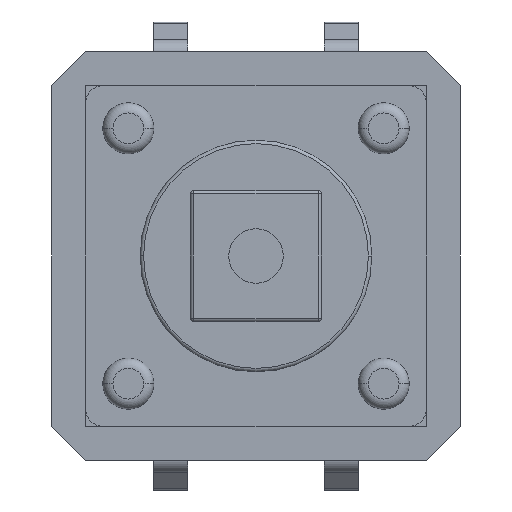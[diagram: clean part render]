
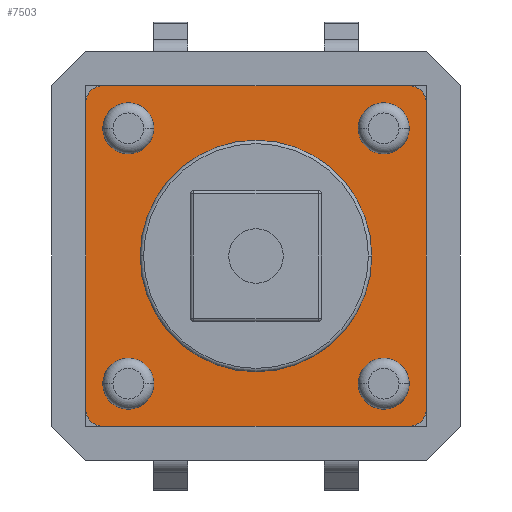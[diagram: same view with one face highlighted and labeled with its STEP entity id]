
A CAD part, front view. The second image highlights one B-rep face of the part: STEP entity #7503.
In plain terms, the highlighted planar face has unit normal (0, -1, 0).
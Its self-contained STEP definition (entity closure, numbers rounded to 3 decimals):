
#7134=CARTESIAN_POINT('',(-3.75,0.,-3.75));
#7135=DIRECTION('',(0.,-1.,0.));
#7136=DIRECTION('',(1.,0.,0.));
#7137=AXIS2_PLACEMENT_3D('',#7134,#7135,#7136);
#7139=CARTESIAN_POINT('',(-3.75,0.,-3.75));
#7140=DIRECTION('',(0.,-1.,0.));
#7141=DIRECTION('',(-1.,0.,0.));
#7142=AXIS2_PLACEMENT_3D('',#7139,#7140,#7141);
#7144=CARTESIAN_POINT('',(3.75,0.,-3.75));
#7145=DIRECTION('',(0.,-1.,0.));
#7146=DIRECTION('',(1.,0.,0.));
#7147=AXIS2_PLACEMENT_3D('',#7144,#7145,#7146);
#7149=CARTESIAN_POINT('',(3.75,0.,-3.75));
#7150=DIRECTION('',(0.,-1.,0.));
#7151=DIRECTION('',(-1.,0.,0.));
#7152=AXIS2_PLACEMENT_3D('',#7149,#7150,#7151);
#7154=CARTESIAN_POINT('',(3.75,0.,3.75));
#7155=DIRECTION('',(0.,-1.,0.));
#7156=DIRECTION('',(1.,0.,0.));
#7157=AXIS2_PLACEMENT_3D('',#7154,#7155,#7156);
#7159=CARTESIAN_POINT('',(3.75,0.,3.75));
#7160=DIRECTION('',(0.,-1.,0.));
#7161=DIRECTION('',(-1.,0.,0.));
#7162=AXIS2_PLACEMENT_3D('',#7159,#7160,#7161);
#7164=CARTESIAN_POINT('',(-3.75,0.,3.75));
#7165=DIRECTION('',(0.,-1.,0.));
#7166=DIRECTION('',(1.,0.,0.));
#7167=AXIS2_PLACEMENT_3D('',#7164,#7165,#7166);
#7169=CARTESIAN_POINT('',(-3.75,0.,3.75));
#7170=DIRECTION('',(0.,-1.,0.));
#7171=DIRECTION('',(-1.,0.,0.));
#7172=AXIS2_PLACEMENT_3D('',#7169,#7170,#7171);
#7174=CARTESIAN_POINT('',(0.,0.,0.));
#7175=DIRECTION('',(0.,-1.,0.));
#7176=DIRECTION('',(1.,0.,0.));
#7177=AXIS2_PLACEMENT_3D('',#7174,#7175,#7176);
#7179=CARTESIAN_POINT('',(0.,0.,0.));
#7180=DIRECTION('',(0.,-1.,0.));
#7181=DIRECTION('',(-1.,0.,0.));
#7182=AXIS2_PLACEMENT_3D('',#7179,#7180,#7181);
#7184=CARTESIAN_POINT('',(-4.5,0.,4.5));
#7185=DIRECTION('',(0.,-1.,0.));
#7186=DIRECTION('',(0.,0.,1.));
#7187=AXIS2_PLACEMENT_3D('',#7184,#7185,#7186);
#7189=DIRECTION('',(1.,0.,0.));
#7190=VECTOR('',#7189,9.);
#7191=CARTESIAN_POINT('',(-4.5,0.,5.));
#7192=LINE('',#7191,#7190);
#7193=CARTESIAN_POINT('',(4.5,0.,4.5));
#7194=DIRECTION('',(0.,-1.,0.));
#7195=DIRECTION('',(1.,0.,0.));
#7196=AXIS2_PLACEMENT_3D('',#7193,#7194,#7195);
#7198=DIRECTION('',(0.,0.,-1.));
#7199=VECTOR('',#7198,9.);
#7200=CARTESIAN_POINT('',(5.,0.,4.5));
#7201=LINE('',#7200,#7199);
#7202=CARTESIAN_POINT('',(4.5,0.,-4.5));
#7203=DIRECTION('',(0.,-1.,0.));
#7204=DIRECTION('',(0.,0.,-1.));
#7205=AXIS2_PLACEMENT_3D('',#7202,#7203,#7204);
#7207=DIRECTION('',(-1.,0.,0.));
#7208=VECTOR('',#7207,9.);
#7209=CARTESIAN_POINT('',(4.5,0.,-5.));
#7210=LINE('',#7209,#7208);
#7211=CARTESIAN_POINT('',(-4.5,0.,-4.5));
#7212=DIRECTION('',(0.,-1.,0.));
#7213=DIRECTION('',(-1.,0.,0.));
#7214=AXIS2_PLACEMENT_3D('',#7211,#7212,#7213);
#7216=DIRECTION('',(0.,0.,1.));
#7217=VECTOR('',#7216,9.);
#7218=CARTESIAN_POINT('',(-5.,0.,-4.5));
#7219=LINE('',#7218,#7217);
#7378=CARTESIAN_POINT('',(-3.5,0.,-3.75));
#7379=CARTESIAN_POINT('',(-4.,0.,-3.75));
#7380=VERTEX_POINT('',#7378);
#7381=VERTEX_POINT('',#7379);
#7382=CARTESIAN_POINT('',(4.,0.,-3.75));
#7383=CARTESIAN_POINT('',(3.5,0.,-3.75));
#7384=VERTEX_POINT('',#7382);
#7385=VERTEX_POINT('',#7383);
#7386=CARTESIAN_POINT('',(4.,0.,3.75));
#7387=CARTESIAN_POINT('',(3.5,0.,3.75));
#7388=VERTEX_POINT('',#7386);
#7389=VERTEX_POINT('',#7387);
#7390=CARTESIAN_POINT('',(-3.5,0.,3.75));
#7391=CARTESIAN_POINT('',(-4.,0.,3.75));
#7392=VERTEX_POINT('',#7390);
#7393=VERTEX_POINT('',#7391);
#7410=CARTESIAN_POINT('',(1.75,0.,0.));
#7411=CARTESIAN_POINT('',(-1.75,0.,0.));
#7412=VERTEX_POINT('',#7410);
#7413=VERTEX_POINT('',#7411);
#7418=CARTESIAN_POINT('',(-4.5,0.,5.));
#7419=CARTESIAN_POINT('',(-5.,0.,4.5));
#7420=VERTEX_POINT('',#7418);
#7421=VERTEX_POINT('',#7419);
#7426=CARTESIAN_POINT('',(5.,0.,4.5));
#7427=CARTESIAN_POINT('',(4.5,0.,5.));
#7428=VERTEX_POINT('',#7426);
#7429=VERTEX_POINT('',#7427);
#7434=CARTESIAN_POINT('',(4.5,0.,-5.));
#7435=CARTESIAN_POINT('',(5.,0.,-4.5));
#7436=VERTEX_POINT('',#7434);
#7437=VERTEX_POINT('',#7435);
#7442=CARTESIAN_POINT('',(-5.,0.,-4.5));
#7443=CARTESIAN_POINT('',(-4.5,0.,-5.));
#7444=VERTEX_POINT('',#7442);
#7445=VERTEX_POINT('',#7443);
#7450=CARTESIAN_POINT('',(0.,0.,0.));
#7451=DIRECTION('',(0.,1.,0.));
#7452=DIRECTION('',(1.,0.,0.));
#7453=AXIS2_PLACEMENT_3D('',#7450,#7451,#7452);
#7454=PLANE('',#7453);
#7456=ORIENTED_EDGE('',*,*,#7455,.F.);
#7458=ORIENTED_EDGE('',*,*,#7457,.T.);
#7460=ORIENTED_EDGE('',*,*,#7459,.F.);
#7462=ORIENTED_EDGE('',*,*,#7461,.T.);
#7464=ORIENTED_EDGE('',*,*,#7463,.F.);
#7466=ORIENTED_EDGE('',*,*,#7465,.T.);
#7468=ORIENTED_EDGE('',*,*,#7467,.F.);
#7470=ORIENTED_EDGE('',*,*,#7469,.T.);
#7471=EDGE_LOOP('',(#7456,#7458,#7460,#7462,#7464,#7466,#7468,#7470));
#7472=FACE_OUTER_BOUND('',#7471,.F.);
#7474=ORIENTED_EDGE('',*,*,#7473,.T.);
#7476=ORIENTED_EDGE('',*,*,#7475,.T.);
#7477=EDGE_LOOP('',(#7474,#7476));
#7478=FACE_BOUND('',#7477,.F.);
#7480=ORIENTED_EDGE('',*,*,#7479,.T.);
#7482=ORIENTED_EDGE('',*,*,#7481,.T.);
#7483=EDGE_LOOP('',(#7480,#7482));
#7484=FACE_BOUND('',#7483,.F.);
#7486=ORIENTED_EDGE('',*,*,#7485,.T.);
#7488=ORIENTED_EDGE('',*,*,#7487,.T.);
#7489=EDGE_LOOP('',(#7486,#7488));
#7490=FACE_BOUND('',#7489,.F.);
#7492=ORIENTED_EDGE('',*,*,#7491,.T.);
#7494=ORIENTED_EDGE('',*,*,#7493,.T.);
#7495=EDGE_LOOP('',(#7492,#7494));
#7496=FACE_BOUND('',#7495,.F.);
#7498=ORIENTED_EDGE('',*,*,#7497,.T.);
#7500=ORIENTED_EDGE('',*,*,#7499,.T.);
#7501=EDGE_LOOP('',(#7498,#7500));
#7502=FACE_BOUND('',#7501,.F.);
#7138=CIRCLE('',#7137,0.25);
#7143=CIRCLE('',#7142,0.25);
#7148=CIRCLE('',#7147,0.25);
#7153=CIRCLE('',#7152,0.25);
#7158=CIRCLE('',#7157,0.25);
#7163=CIRCLE('',#7162,0.25);
#7168=CIRCLE('',#7167,0.25);
#7173=CIRCLE('',#7172,0.25);
#7178=CIRCLE('',#7177,1.75);
#7183=CIRCLE('',#7182,1.75);
#7188=CIRCLE('',#7187,0.5);
#7197=CIRCLE('',#7196,0.5);
#7206=CIRCLE('',#7205,0.5);
#7215=CIRCLE('',#7214,0.5);
#7455=EDGE_CURVE('',#7420,#7421,#7188,.T.);
#7457=EDGE_CURVE('',#7420,#7429,#7192,.T.);
#7459=EDGE_CURVE('',#7428,#7429,#7197,.T.);
#7461=EDGE_CURVE('',#7428,#7437,#7201,.T.);
#7463=EDGE_CURVE('',#7436,#7437,#7206,.T.);
#7465=EDGE_CURVE('',#7436,#7445,#7210,.T.);
#7467=EDGE_CURVE('',#7444,#7445,#7215,.T.);
#7469=EDGE_CURVE('',#7444,#7421,#7219,.T.);
#7473=EDGE_CURVE('',#7384,#7385,#7148,.T.);
#7475=EDGE_CURVE('',#7385,#7384,#7153,.T.);
#7479=EDGE_CURVE('',#7388,#7389,#7158,.T.);
#7481=EDGE_CURVE('',#7389,#7388,#7163,.T.);
#7485=EDGE_CURVE('',#7392,#7393,#7168,.T.);
#7487=EDGE_CURVE('',#7393,#7392,#7173,.T.);
#7491=EDGE_CURVE('',#7412,#7413,#7178,.T.);
#7493=EDGE_CURVE('',#7413,#7412,#7183,.T.);
#7497=EDGE_CURVE('',#7380,#7381,#7138,.T.);
#7499=EDGE_CURVE('',#7381,#7380,#7143,.T.);
#7503=ADVANCED_FACE('',(#7472,#7478,#7484,#7490,#7496,#7502),#7454,.F.);
